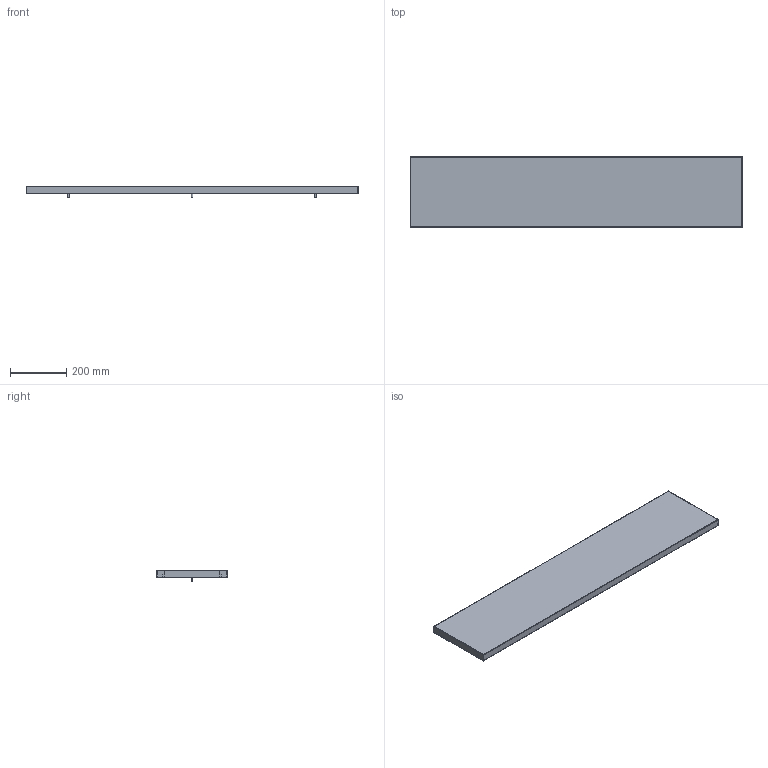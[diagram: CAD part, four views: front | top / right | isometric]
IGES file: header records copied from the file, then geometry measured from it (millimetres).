
Start section: SolidWorks IGES file using NURBS representation for surfaces
Global section: file name: Z:\Modele 3D_WWW\_CAMELEON\PUSZKI WWW\CAMELEON-CANOPY_C_1200_8554_8555\CANOPY_C_1200_8554_8555.IGS; native system: SolidWorks 2021; preprocessor: SolidWorks 2021; author: gabriela.tworek; date: 220301.112208; units: millimetre
Bounding box: 1181.6 x 250 x 42 mm (x, y, z)
Surface area: 1421430.7 mm2 (no closed solid volume)
Topology: 0 solids, 0 shells, 149 faces, 643 edges, 640 vertices
Faces by surface type: bspline 149
